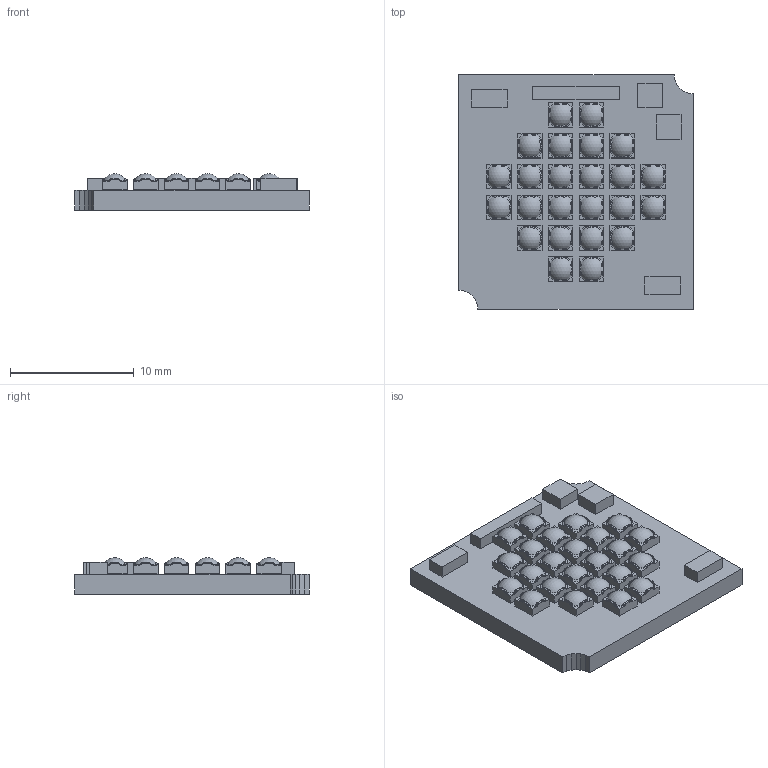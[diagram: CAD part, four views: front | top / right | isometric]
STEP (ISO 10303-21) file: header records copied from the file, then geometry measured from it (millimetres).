
FILE_DESCRIPTION((''),'2;1');
FILE_NAME('V19L13SA2_06072021_10-39-32_ASM','2021-06-07T',('SYSTEM'),(''),'PRO/ENGINEER BY PARAMETRIC TECHNOLOGY CORPORATION, 2009360','PRO/ENGINEER BY PARAMETRIC TECHNOLOGY CORPORATION, 2009360','');
FILE_SCHEMA(('AUTOMOTIVE_DESIGN_CC2 { 1 2 10303 214 -1 1 5 2 }'));
Products named in the file (7): V19L13SA2_06072021_10-39-32; TC_R1MM; 2020; FIDUCIAL_R0_5MM; ARKALUMEN_LOGO_7MM; C1919_EC; V19L13SA2_06072021_10-39-32_ASM
Assembly tree (30 placements, depth 2):
  V19L13SA2_06072021_10-39-32_ASM
    V19L13SA2_06072021_10-39-32
    TC_R1MM
    2020  x24
    FIDUCIAL_R0_5MM
    ARKALUMEN_LOGO_7MM
    C1919_EC  x2
Bounding box: 19 x 19 x 2.94 mm (x, y, z)
Volume: 690.8 mm3; surface area: 1306.1 mm2
Topology: 30 solids, 30 shells, 2040 faces, 5196 edges, 3288 vertices
Faces by surface type: plane 744, cylinder 696, bspline 384, torus 192, sphere 24
Entity records: 4734 total; most frequent: CARTESIAN_POINT 1203, DIRECTION 636, ORIENTED_EDGE 616, EDGE_CURVE 308, AXIS2_PLACEMENT_3D 222, VERTEX_POINT 198, VECTOR 192, LINE 192
